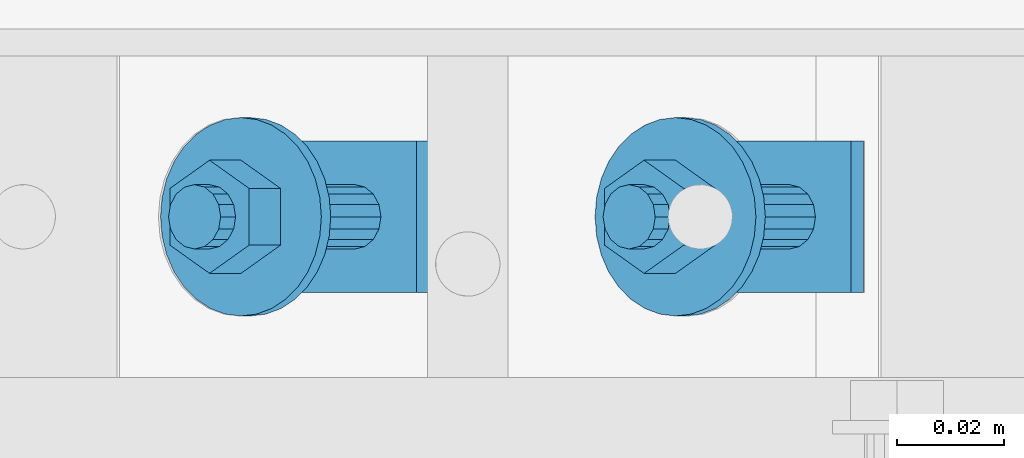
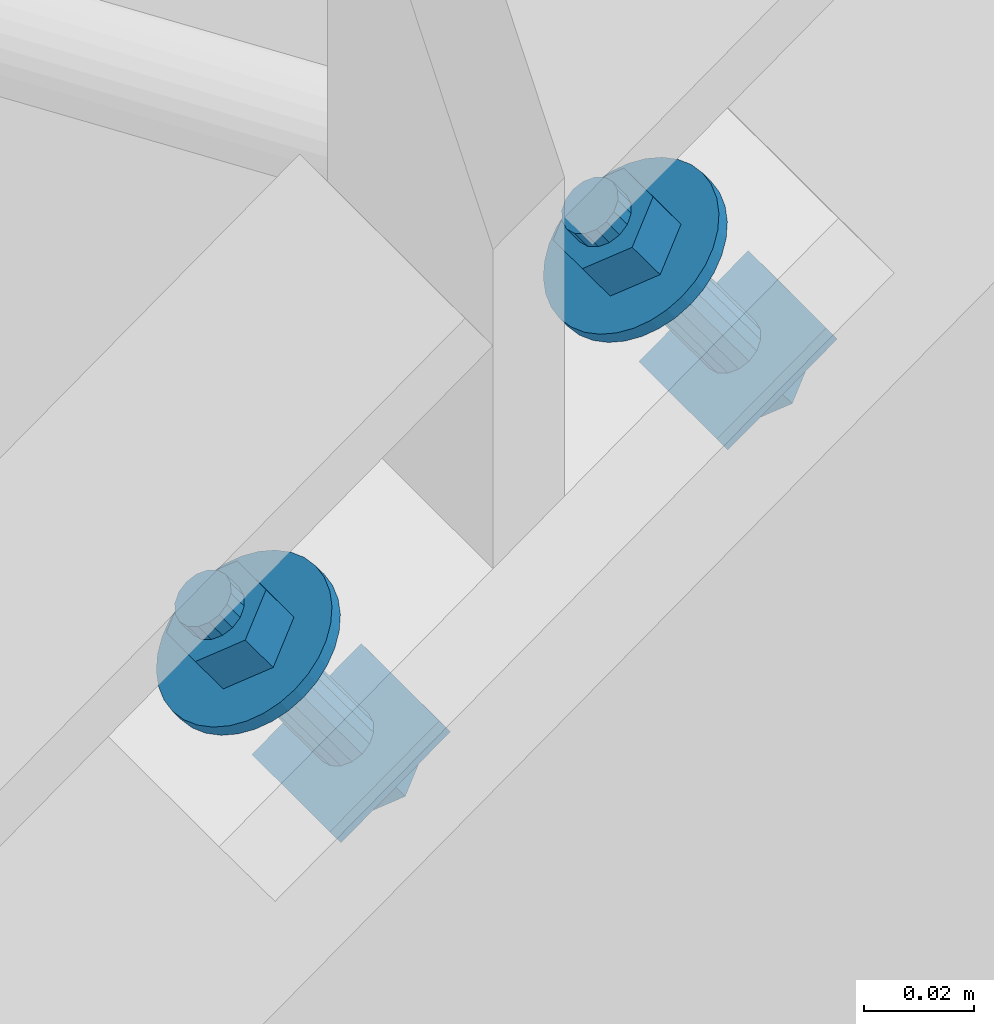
# One storey, part 396 of 825: 1 mechanical fastener.
"""IFC2X3 building model written with IfcOpenShell, lengths in millimetres."""

from ifc_helpers import new_model, entity, si_unit, converted_unit, origin_with_axes, place, context, project, spatial, faceted_brep, element, save


model = new_model("IFC2X3")

# Units and contexts
model_context = context("Model", 3, precision=1e-09, world=origin_with_axes())
ifc_project = project(units=[si_unit("LENGTHUNIT", "METRE", prefix="MILLI"), si_unit("AREAUNIT", "SQUARE_METRE"), si_unit("VOLUMEUNIT", "CUBIC_METRE"), converted_unit("PLANEANGLEUNIT", "DEGREE", entity("IfcPlaneAngleMeasure", 0.01745329), si_unit("PLANEANGLEUNIT", "RADIAN"), dimensions=[0, 0, 0, 0, 0, 0, 0])], contexts=[model_context])

# Site, building, storey
site_placement = place(None, origin_with_axes())
site = spatial("IfcSite", under=ifc_project, at=site_placement, Name="Cnopf'sche Kinderklinik", CompositionType="ELEMENT")
building_placement = place(site_placement, origin_with_axes())
building = spatial("IfcBuilding", under=site, at=building_placement, Name="Struktur 1", CompositionType="ELEMENT")
storey_placement = place(building_placement, origin_with_axes())
storey = spatial("IfcBuildingStorey", under=building, at=storey_placement, Name="Default Storey", CompositionType="ELEMENT", Elevation=0.0)

# Mechanical fastener
mechanical_fastener_placement = place(None, origin_with_axes())
element("IfcMechanicalFastener", 1, at=mechanical_fastener_placement, inside=storey, ObjectType="Bolt#502", NominalDiameter=12.0, NominalLength=55.0, context=model_context, shape_type="Brep", body=[
    faceted_brep([(6745.489928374, 7342.59483628, 8429.68179782), (6743.146145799, 7342.59483628, 8432.923199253), (6720.225976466, 7342.59483628, 8416.350153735), (6722.56975904, 7342.59483628, 8413.108752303), (6720.225976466, 7370.879107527, 8416.350153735), (6722.56975904, 7370.879107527, 8413.108752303), (6743.146145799, 7370.879107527, 8432.923199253), (6745.489928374, 7370.879107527, 8429.68179782)], [[[0, 1, 2, 3]], [[3, 2, 4, 5]], [[5, 4, 6, 7]], [[7, 6, 1, 0]], [[3, 5, 7, 0]], [[2, 1, 6, 4]]]),
    faceted_brep([(6664.454892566, 7342.59483628, 8371.087233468), (6662.111109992, 7342.59483628, 8374.3286349), (6639.190940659, 7342.59483628, 8357.755589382), (6641.534723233, 7342.59483628, 8354.51418795), (6639.190940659, 7370.879107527, 8357.755589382), (6641.534723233, 7370.879107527, 8354.51418795), (6662.111109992, 7370.879107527, 8374.3286349), (6664.454892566, 7370.879107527, 8371.087233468)], [[[0, 1, 2, 3]], [[3, 2, 4, 5]], [[5, 4, 6, 7]], [[7, 6, 1, 0]], [[3, 5, 7, 0]], [[2, 1, 6, 4]]]),
    faceted_brep([(6745.452802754, 7351.729471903, 8420.399697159), (6741.058210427, 7351.729471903, 8426.477324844), (6734.029843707, 7346.721971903, 8421.395275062), (6738.424436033, 7346.721971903, 8415.317647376), (6727.001476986, 7351.729471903, 8416.313225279), (6731.396069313, 7351.729471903, 8410.235597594), (6727.001476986, 7361.744471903, 8416.313225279), (6731.396069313, 7361.744471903, 8410.235597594), (6734.029843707, 7366.751971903, 8421.395275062), (6738.424436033, 7366.751971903, 8415.317647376), (6741.058210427, 7361.744471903, 8426.477324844), (6745.452802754, 7361.744471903, 8420.399697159)], [[[0, 1, 2, 3]], [[3, 2, 4, 5]], [[5, 4, 6, 7]], [[7, 6, 8, 9]], [[9, 8, 10, 11]], [[11, 10, 1, 0]], [[3, 5, 7, 9, 11, 0]], [[2, 1, 10, 8, 6, 4]]]),
    faceted_brep([(6664.417766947, 7351.729471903, 8361.805132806), (6660.02317462, 7351.729471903, 8367.882760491), (6652.9948079, 7346.721971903, 8362.800710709), (6657.389400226, 7346.721971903, 8356.723083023), (6645.966441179, 7351.729471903, 8357.718660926), (6650.361033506, 7351.729471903, 8351.641033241), (6645.966441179, 7361.744471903, 8357.718660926), (6650.361033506, 7361.744471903, 8351.641033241), (6652.9948079, 7366.751971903, 8362.800710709), (6657.389400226, 7366.751971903, 8356.723083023), (6660.02317462, 7361.744471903, 8367.882760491), (6664.417766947, 7361.744471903, 8361.805132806)], [[[0, 1, 2, 3]], [[3, 2, 4, 5]], [[5, 4, 6, 7]], [[7, 6, 8, 9]], [[9, 8, 10, 11]], [[11, 10, 1, 0]], [[3, 5, 7, 9, 11, 0]], [[2, 1, 10, 8, 6, 4]]]),
    faceted_brep([(6707.344779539, 7356.736971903, 8448.060293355), (6726.823958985, 7356.736971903, 8421.121002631), (6727.194064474, 7354.440871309, 8421.388617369), (6707.714885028, 7354.440871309, 8448.327908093), (6728.248035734, 7352.494331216, 8422.150719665), (6708.768856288, 7352.494331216, 8449.090010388), (6729.825415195, 7351.193694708, 8423.291286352), (6710.346235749, 7351.193694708, 8450.230577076), (6731.686061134, 7350.736971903, 8424.636676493), (6712.206881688, 7350.736971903, 8451.575967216), (6733.546707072, 7351.193694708, 8425.982066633), (6714.067527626, 7351.193694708, 8452.921357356), (6735.124086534, 7352.494331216, 8427.12263332), (6715.644907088, 7352.494331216, 8454.061924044), (6736.178057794, 7354.440871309, 8427.884735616), (6716.698878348, 7354.440871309, 8454.824026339), (6736.548163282, 7356.736971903, 8428.152350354), (6717.068983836, 7356.736971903, 8455.091641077), (6736.178057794, 7359.033072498, 8427.884735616), (6716.698878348, 7359.033072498, 8454.824026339), (6735.124086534, 7360.97961259, 8427.12263332), (6715.644907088, 7360.97961259, 8454.061924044), (6733.546707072, 7362.280249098, 8425.982066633), (6714.067527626, 7362.280249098, 8452.921357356), (6731.686061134, 7362.736971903, 8424.636676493), (6712.206881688, 7362.736971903, 8451.575967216), (6729.825415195, 7362.280249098, 8423.291286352), (6710.346235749, 7362.280249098, 8450.230577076), (6728.248035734, 7360.97961259, 8422.150719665), (6708.768856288, 7360.97961259, 8449.090010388), (6727.194064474, 7359.033072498, 8421.388617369), (6707.714885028, 7359.033072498, 8448.327908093)], [[[0, 1, 2, 3]], [[3, 2, 4, 5]], [[5, 4, 6, 7]], [[7, 6, 8, 9]], [[9, 8, 10, 11]], [[11, 10, 12, 13]], [[13, 12, 14, 15]], [[15, 14, 16, 17]], [[17, 16, 18, 19]], [[19, 18, 20, 21]], [[21, 20, 22, 23]], [[23, 22, 24, 25]], [[25, 24, 26, 27]], [[27, 26, 28, 29]], [[29, 28, 30, 31]], [[31, 30, 1, 0]], [[2, 1, 30, 28, 26, 24, 22, 20, 18, 16, 14, 12, 10, 8, 6, 4]], [[31, 0, 3, 5, 7, 9, 11, 13, 15, 17, 19, 21, 23, 25, 27, 29]]]),
    faceted_brep([(6626.309743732, 7356.736971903, 8389.465729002), (6645.788923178, 7356.736971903, 8362.526438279), (6646.159028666, 7354.440871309, 8362.794053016), (6626.67984922, 7354.440871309, 8389.73334374), (6647.212999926, 7352.494331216, 8363.556155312), (6627.73382048, 7352.494331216, 8390.495446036), (6648.790379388, 7351.193694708, 8364.696722), (6629.311199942, 7351.193694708, 8391.636012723), (6650.651025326, 7350.736971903, 8366.04211214), (6631.17184588, 7350.736971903, 8392.981402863), (6652.511671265, 7351.193694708, 8367.38750228), (6633.032491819, 7351.193694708, 8394.326793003), (6654.089050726, 7352.494331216, 8368.528068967), (6634.60987128, 7352.494331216, 8395.467359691), (6655.143021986, 7354.440871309, 8369.290171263), (6635.66384254, 7354.440871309, 8396.229461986), (6655.513127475, 7356.736971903, 8369.557786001), (6636.033948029, 7356.736971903, 8396.497076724), (6655.143021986, 7359.033072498, 8369.290171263), (6635.66384254, 7359.033072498, 8396.229461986), (6654.089050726, 7360.97961259, 8368.528068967), (6634.60987128, 7360.97961259, 8395.467359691), (6652.511671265, 7362.280249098, 8367.38750228), (6633.032491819, 7362.280249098, 8394.326793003), (6650.651025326, 7362.736971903, 8366.04211214), (6631.17184588, 7362.736971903, 8392.981402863), (6648.790379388, 7362.280249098, 8364.696722), (6629.311199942, 7362.280249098, 8391.636012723), (6647.212999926, 7360.97961259, 8363.556155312), (6627.73382048, 7360.97961259, 8390.495446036), (6646.159028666, 7359.033072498, 8362.794053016), (6626.67984922, 7359.033072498, 8389.73334374)], [[[0, 1, 2, 3]], [[3, 2, 4, 5]], [[5, 4, 6, 7]], [[7, 6, 8, 9]], [[9, 8, 10, 11]], [[11, 10, 12, 13]], [[13, 12, 14, 15]], [[15, 14, 16, 17]], [[17, 16, 18, 19]], [[19, 18, 20, 21]], [[21, 20, 22, 23]], [[23, 22, 24, 25]], [[25, 24, 26, 27]], [[27, 26, 28, 29]], [[29, 28, 30, 31]], [[31, 30, 1, 0]], [[2, 1, 30, 28, 26, 24, 22, 20, 18, 16, 14, 12, 10, 8, 6, 4]], [[31, 0, 3, 5, 7, 9, 11, 13, 15, 17, 19, 21, 23, 25, 27, 29]]]),
    faceted_brep([(6695.457563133, 7356.736971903, 8443.167023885), (6697.215400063, 7356.736971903, 8440.735972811), (6697.503457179, 7353.127800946, 8440.944260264), (6695.745620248, 7353.127800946, 8443.375311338), (6698.356558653, 7349.657328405, 8441.561118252), (6696.598721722, 7349.657328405, 8443.992169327), (6699.741920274, 7346.458922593, 8442.56284127), (6697.984083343, 7346.458922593, 8444.993892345), (6701.606303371, 7343.655496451, 8443.910933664), (6699.84846644, 7343.655496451, 8446.341984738), (6703.878060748, 7341.354784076, 8445.553588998), (6702.120223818, 7341.354784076, 8447.984640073), (6706.469890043, 7339.645200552, 8447.42768095), (6704.712053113, 7339.645200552, 8449.858732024), (6709.28218871, 7338.592444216, 8449.461189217), (6707.52435178, 7338.592444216, 8451.892240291), (6712.206881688, 7338.236971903, 8451.575967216), (6710.449044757, 7338.236971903, 8454.00701829), (6715.131574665, 7338.592444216, 8453.690745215), (6713.373737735, 7338.592444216, 8456.121796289), (6717.943873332, 7339.645200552, 8455.724253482), (6716.186036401, 7339.645200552, 8458.155304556), (6720.535702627, 7341.354784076, 8457.598345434), (6718.777865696, 7341.354784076, 8460.029396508), (6722.807460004, 7343.655496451, 8459.241000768), (6721.049623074, 7343.655496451, 8461.672051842), (6724.671843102, 7346.458922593, 8460.589093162), (6722.914006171, 7346.458922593, 8463.020144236), (6726.057204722, 7349.657328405, 8461.59081618), (6724.299367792, 7349.657328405, 8464.021867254), (6726.910306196, 7353.127800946, 8462.207674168), (6725.152469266, 7353.127800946, 8464.638725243), (6727.198363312, 7356.736971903, 8462.415961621), (6725.440526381, 7356.736971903, 8464.847012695), (6726.910306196, 7360.346142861, 8462.207674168), (6725.152469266, 7360.346142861, 8464.638725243), (6726.057204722, 7363.816615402, 8461.59081618), (6724.299367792, 7363.816615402, 8464.021867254), (6724.671843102, 7367.015021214, 8460.589093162), (6722.914006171, 7367.015021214, 8463.020144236), (6722.807460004, 7369.818447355, 8459.241000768), (6721.049623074, 7369.818447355, 8461.672051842), (6720.535702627, 7372.119159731, 8457.598345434), (6718.777865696, 7372.119159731, 8460.029396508), (6717.943873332, 7373.828743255, 8455.724253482), (6716.186036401, 7373.828743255, 8458.155304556), (6715.131574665, 7374.881499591, 8453.690745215), (6713.373737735, 7374.881499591, 8456.121796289), (6712.206881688, 7375.236971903, 8451.575967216), (6710.449044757, 7375.236971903, 8454.00701829), (6709.28218871, 7374.881499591, 8449.461189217), (6707.52435178, 7374.881499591, 8451.892240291), (6706.469890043, 7373.828743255, 8447.42768095), (6704.712053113, 7373.828743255, 8449.858732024), (6703.878060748, 7372.119159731, 8445.553588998), (6702.120223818, 7372.119159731, 8447.984640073), (6701.606303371, 7369.818447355, 8443.910933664), (6699.84846644, 7369.818447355, 8446.341984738), (6699.741920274, 7367.015021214, 8442.56284127), (6697.984083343, 7367.015021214, 8444.993892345), (6698.356558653, 7363.816615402, 8441.561118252), (6696.598721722, 7363.816615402, 8443.992169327), (6697.503457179, 7360.346142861, 8440.944260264), (6695.745620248, 7360.346142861, 8443.375311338)], [[[0, 1, 2, 3]], [[3, 2, 4, 5]], [[5, 4, 6, 7]], [[7, 6, 8, 9]], [[9, 8, 10, 11]], [[11, 10, 12, 13]], [[13, 12, 14, 15]], [[15, 14, 16, 17]], [[17, 16, 18, 19]], [[19, 18, 20, 21]], [[21, 20, 22, 23]], [[23, 22, 24, 25]], [[25, 24, 26, 27]], [[27, 26, 28, 29]], [[29, 28, 30, 31]], [[31, 30, 32, 33]], [[33, 32, 34, 35]], [[35, 34, 36, 37]], [[37, 36, 38, 39]], [[39, 38, 40, 41]], [[41, 40, 42, 43]], [[43, 42, 44, 45]], [[45, 44, 46, 47]], [[47, 46, 48, 49]], [[49, 48, 50, 51]], [[51, 50, 52, 53]], [[53, 52, 54, 55]], [[55, 54, 56, 57]], [[57, 56, 58, 59]], [[59, 58, 60, 61]], [[61, 60, 62, 63]], [[63, 62, 1, 0]], [[2, 1, 62, 60, 58, 56, 54, 52, 50, 48, 46, 44, 42, 40, 38, 36, 34, 32, 30, 28, 26, 24, 22, 20, 18, 16, 14, 12, 10, 8, 6, 4]], [[63, 0, 3, 5, 7, 9, 11, 13, 15, 17, 19, 21, 23, 25, 27, 29, 31, 33, 35, 37, 39, 41, 43, 45, 47, 49, 51, 53, 55, 57, 59, 61]]]),
    faceted_brep([(6614.422527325, 7356.736971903, 8384.572459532), (6616.180364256, 7356.736971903, 8382.141408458), (6616.468421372, 7353.127800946, 8382.349695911), (6614.710584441, 7353.127800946, 8384.780746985), (6617.321522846, 7349.657328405, 8382.9665539), (6615.563685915, 7349.657328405, 8385.397604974), (6618.706884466, 7346.458922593, 8383.968276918), (6616.949047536, 7346.458922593, 8386.399327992), (6620.571267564, 7343.655496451, 8385.316369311), (6618.813430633, 7343.655496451, 8387.747420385), (6622.843024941, 7341.354784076, 8386.959024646), (6621.08518801, 7341.354784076, 8389.39007572), (6625.434854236, 7339.645200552, 8388.833116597), (6623.677017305, 7339.645200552, 8391.264167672), (6628.247152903, 7338.592444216, 8390.866624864), (6626.489315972, 7338.592444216, 8393.297675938), (6631.17184588, 7338.236971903, 8392.981402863), (6629.41400895, 7338.236971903, 8395.412453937), (6634.096538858, 7338.592444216, 8395.096180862), (6632.338701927, 7338.592444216, 8397.527231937), (6636.908837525, 7339.645200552, 8397.129689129), (6635.151000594, 7339.645200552, 8399.560740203), (6639.50066682, 7341.354784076, 8399.003781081), (6637.742829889, 7341.354784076, 8401.434832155), (6641.772424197, 7343.655496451, 8400.646436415), (6640.014587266, 7343.655496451, 8403.077487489), (6643.636807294, 7346.458922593, 8401.994528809), (6641.878970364, 7346.458922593, 8404.425579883), (6645.022168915, 7349.657328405, 8402.996251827), (6643.264331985, 7349.657328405, 8405.427302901), (6645.875270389, 7353.127800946, 8403.613109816), (6644.117433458, 7353.127800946, 8406.04416089), (6646.163327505, 7356.736971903, 8403.821397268), (6644.405490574, 7356.736971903, 8406.252448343), (6645.875270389, 7360.346142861, 8403.613109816), (6644.117433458, 7360.346142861, 8406.04416089), (6645.022168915, 7363.816615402, 8402.996251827), (6643.264331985, 7363.816615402, 8405.427302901), (6643.636807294, 7367.015021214, 8401.994528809), (6641.878970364, 7367.015021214, 8404.425579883), (6641.772424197, 7369.818447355, 8400.646436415), (6640.014587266, 7369.818447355, 8403.077487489), (6639.50066682, 7372.119159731, 8399.003781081), (6637.742829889, 7372.119159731, 8401.434832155), (6636.908837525, 7373.828743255, 8397.129689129), (6635.151000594, 7373.828743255, 8399.560740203), (6634.096538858, 7374.881499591, 8395.096180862), (6632.338701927, 7374.881499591, 8397.527231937), (6631.17184588, 7375.236971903, 8392.981402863), (6629.41400895, 7375.236971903, 8395.412453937), (6628.247152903, 7374.881499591, 8390.866624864), (6626.489315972, 7374.881499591, 8393.297675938), (6625.434854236, 7373.828743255, 8388.833116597), (6623.677017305, 7373.828743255, 8391.264167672), (6622.843024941, 7372.119159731, 8386.959024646), (6621.08518801, 7372.119159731, 8389.39007572), (6620.571267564, 7369.818447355, 8385.316369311), (6618.813430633, 7369.818447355, 8387.747420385), (6618.706884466, 7367.015021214, 8383.968276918), (6616.949047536, 7367.015021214, 8386.399327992), (6617.321522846, 7363.816615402, 8382.9665539), (6615.563685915, 7363.816615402, 8385.397604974), (6616.468421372, 7360.346142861, 8382.349695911), (6614.710584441, 7360.346142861, 8384.780746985)], [[[0, 1, 2, 3]], [[3, 2, 4, 5]], [[5, 4, 6, 7]], [[7, 6, 8, 9]], [[9, 8, 10, 11]], [[11, 10, 12, 13]], [[13, 12, 14, 15]], [[15, 14, 16, 17]], [[17, 16, 18, 19]], [[19, 18, 20, 21]], [[21, 20, 22, 23]], [[23, 22, 24, 25]], [[25, 24, 26, 27]], [[27, 26, 28, 29]], [[29, 28, 30, 31]], [[31, 30, 32, 33]], [[33, 32, 34, 35]], [[35, 34, 36, 37]], [[37, 36, 38, 39]], [[39, 38, 40, 41]], [[41, 40, 42, 43]], [[43, 42, 44, 45]], [[45, 44, 46, 47]], [[47, 46, 48, 49]], [[49, 48, 50, 51]], [[51, 50, 52, 53]], [[53, 52, 54, 55]], [[55, 54, 56, 57]], [[57, 56, 58, 59]], [[59, 58, 60, 61]], [[61, 60, 62, 63]], [[63, 62, 1, 0]], [[2, 1, 62, 60, 58, 56, 54, 52, 50, 48, 46, 44, 42, 40, 38, 36, 34, 32, 30, 28, 26, 24, 22, 20, 18, 16, 14, 12, 10, 8, 6, 4]], [[63, 0, 3, 5, 7, 9, 11, 13, 15, 17, 19, 21, 23, 25, 27, 29, 31, 33, 35, 37, 39, 41, 43, 45, 47, 49, 51, 53, 55, 57, 59, 61]]]),
    faceted_brep([(6717.852865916, 7351.461971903, 8459.360550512), (6711.99340948, 7351.461971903, 8467.464054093), (6704.589588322, 7346.186971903, 8462.110521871), (6710.449044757, 7346.186971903, 8454.00701829), (6697.185767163, 7351.461971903, 8456.756989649), (6703.045223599, 7351.461971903, 8448.653486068), (6697.185767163, 7362.011971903, 8456.756989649), (6703.045223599, 7362.011971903, 8448.653486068), (6704.589588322, 7367.286971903, 8462.110521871), (6710.449044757, 7367.286971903, 8454.00701829), (6711.99340948, 7362.011971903, 8467.464054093), (6717.852865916, 7362.011971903, 8459.360550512)], [[[0, 1, 2, 3]], [[3, 2, 4, 5]], [[5, 4, 6, 7]], [[7, 6, 8, 9]], [[9, 8, 10, 11]], [[11, 10, 1, 0]], [[3, 5, 7, 9, 11, 0]], [[2, 1, 10, 8, 6, 4]]]),
    faceted_brep([(6636.817830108, 7351.461971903, 8400.76598616), (6630.958373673, 7351.461971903, 8408.86948974), (6623.554552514, 7346.186971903, 8403.515957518), (6629.41400895, 7346.186971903, 8395.412453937), (6616.150731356, 7351.461971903, 8398.162425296), (6622.010187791, 7351.461971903, 8390.058921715), (6616.150731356, 7362.011971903, 8398.162425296), (6622.010187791, 7362.011971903, 8390.058921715), (6623.554552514, 7367.286971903, 8403.515957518), (6629.41400895, 7367.286971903, 8395.412453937), (6630.958373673, 7362.011971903, 8408.86948974), (6636.817830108, 7362.011971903, 8400.76598616)], [[[0, 1, 2, 3]], [[3, 2, 4, 5]], [[5, 4, 6, 7]], [[7, 6, 8, 9]], [[9, 8, 10, 11]], [[11, 10, 1, 0]], [[3, 5, 7, 9, 11, 0]], [[2, 1, 10, 8, 6, 4]]]),
    faceted_brep([(6696.940731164, 7356.736971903, 8462.448870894), (6699.727486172, 7356.736971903, 8458.594848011), (6700.097591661, 7354.440871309, 8458.862462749), (6697.310836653, 7354.440871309, 8462.716485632), (6701.151562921, 7352.494331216, 8459.624565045), (6698.364807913, 7352.494331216, 8463.478587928), (6702.728942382, 7351.193694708, 8460.765131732), (6699.942187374, 7351.193694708, 8464.619154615), (6704.589588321, 7350.736971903, 8462.110521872), (6701.802833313, 7350.736971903, 8465.964544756), (6706.45023426, 7351.193694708, 8463.455912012), (6703.663479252, 7351.193694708, 8467.309934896), (6708.027613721, 7352.494331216, 8464.5964787), (6705.240858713, 7352.494331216, 8468.450501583), (6709.081584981, 7354.440871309, 8465.358580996), (6706.294829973, 7354.440871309, 8469.212603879), (6709.451690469, 7356.736971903, 8465.626195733), (6706.664935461, 7356.736971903, 8469.480218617), (6709.081584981, 7359.033072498, 8465.358580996), (6706.294829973, 7359.033072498, 8469.212603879), (6708.027613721, 7360.97961259, 8464.5964787), (6705.240858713, 7360.97961259, 8468.450501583), (6706.45023426, 7362.280249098, 8463.455912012), (6703.663479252, 7362.280249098, 8467.309934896), (6704.589588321, 7362.736971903, 8462.110521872), (6701.802833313, 7362.736971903, 8465.964544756), (6702.728942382, 7362.280249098, 8460.765131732), (6699.942187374, 7362.280249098, 8464.619154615), (6701.151562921, 7360.97961259, 8459.624565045), (6698.364807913, 7360.97961259, 8463.478587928), (6700.097591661, 7359.033072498, 8458.862462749), (6697.310836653, 7359.033072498, 8462.716485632)], [[[0, 1, 2, 3]], [[3, 2, 4, 5]], [[5, 4, 6, 7]], [[7, 6, 8, 9]], [[9, 8, 10, 11]], [[11, 10, 12, 13]], [[13, 12, 14, 15]], [[15, 14, 16, 17]], [[17, 16, 18, 19]], [[19, 18, 20, 21]], [[21, 20, 22, 23]], [[23, 22, 24, 25]], [[25, 24, 26, 27]], [[27, 26, 28, 29]], [[29, 28, 30, 31]], [[31, 30, 1, 0]], [[2, 1, 30, 28, 26, 24, 22, 20, 18, 16, 14, 12, 10, 8, 6, 4]], [[31, 0, 3, 5, 7, 9, 11, 13, 15, 17, 19, 21, 23, 25, 27, 29]]]),
    faceted_brep([(6615.905695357, 7356.736971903, 8403.854306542), (6618.692450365, 7356.736971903, 8400.000283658), (6619.062555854, 7354.440871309, 8400.267898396), (6616.275800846, 7354.440871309, 8404.121921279), (6620.116527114, 7352.494331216, 8401.030000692), (6617.329772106, 7352.494331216, 8404.884023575), (6621.693906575, 7351.193694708, 8402.170567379), (6618.907151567, 7351.193694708, 8406.024590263), (6623.554552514, 7350.736971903, 8403.515957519), (6620.767797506, 7350.736971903, 8407.369980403), (6625.415198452, 7351.193694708, 8404.86134766), (6622.628443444, 7351.193694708, 8408.715370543), (6626.992577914, 7352.494331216, 8406.001914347), (6624.205822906, 7352.494331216, 8409.85593723), (6628.046549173, 7354.440871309, 8406.764016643), (6625.259794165, 7354.440871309, 8410.618039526), (6628.416654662, 7356.736971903, 8407.031631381), (6625.629899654, 7356.736971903, 8410.885654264), (6628.046549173, 7359.033072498, 8406.764016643), (6625.259794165, 7359.033072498, 8410.618039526), (6626.992577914, 7360.97961259, 8406.001914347), (6624.205822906, 7360.97961259, 8409.85593723), (6625.415198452, 7362.280249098, 8404.86134766), (6622.628443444, 7362.280249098, 8408.715370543), (6623.554552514, 7362.736971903, 8403.515957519), (6620.767797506, 7362.736971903, 8407.369980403), (6621.693906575, 7362.280249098, 8402.170567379), (6618.907151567, 7362.280249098, 8406.024590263), (6620.116527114, 7360.97961259, 8401.030000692), (6617.329772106, 7360.97961259, 8404.884023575), (6619.062555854, 7359.033072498, 8400.267898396), (6616.275800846, 7359.033072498, 8404.121921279)], [[[0, 1, 2, 3]], [[3, 2, 4, 5]], [[5, 4, 6, 7]], [[7, 6, 8, 9]], [[9, 8, 10, 11]], [[11, 10, 12, 13]], [[13, 12, 14, 15]], [[15, 14, 16, 17]], [[17, 16, 18, 19]], [[19, 18, 20, 21]], [[21, 20, 22, 23]], [[23, 22, 24, 25]], [[25, 24, 26, 27]], [[27, 26, 28, 29]], [[29, 28, 30, 31]], [[31, 30, 1, 0]], [[2, 1, 30, 28, 26, 24, 22, 20, 18, 16, 14, 12, 10, 8, 6, 4]], [[31, 0, 3, 5, 7, 9, 11, 13, 15, 17, 19, 21, 23, 25, 27, 29]]]),
])

save(model, "model.ifc")
